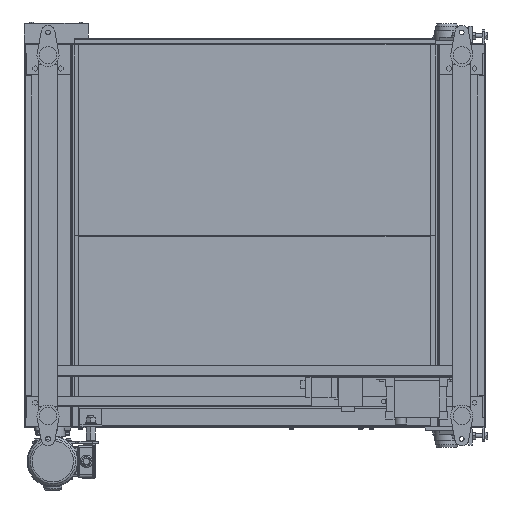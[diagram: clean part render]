
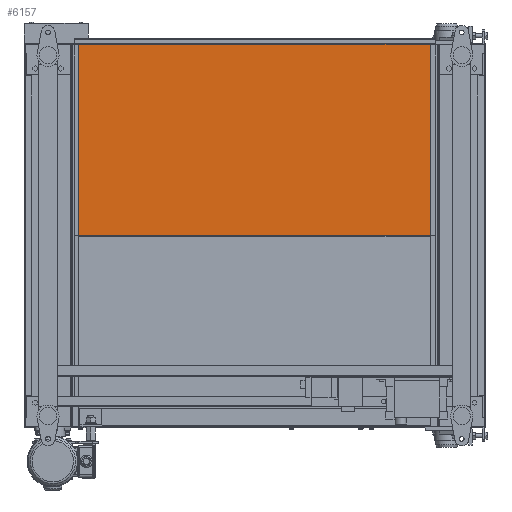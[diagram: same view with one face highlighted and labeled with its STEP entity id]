
A CAD part, front view. The second image highlights one B-rep face of the part: STEP entity #6157.
In plain terms, the highlighted planar face has unit normal (0, -1, 0).
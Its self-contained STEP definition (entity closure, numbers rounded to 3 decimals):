
#6157=ADVANCED_FACE('',(#36626),#36625,.F.);
#36625=PLANE('',#53426);
#36626=FACE_OUTER_BOUND('',#53427,.T.);
#53423=CARTESIAN_POINT('',(127.5,-165.,-10.));
#53424=DIRECTION('',(0.,1.,0.));
#53425=DIRECTION('',(0.,0.,1.));
#53426=AXIS2_PLACEMENT_3D('',#53423,#53424,#53425);
#53427=EDGE_LOOP('',(#70138,#70139,#70140,#70141));
#70138=ORIENTED_EDGE('',*,*,#78588,.F.);
#70139=ORIENTED_EDGE('',*,*,#78594,.F.);
#70140=ORIENTED_EDGE('',*,*,#78595,.F.);
#70141=ORIENTED_EDGE('',*,*,#78596,.F.);
#78588=EDGE_CURVE('',#133570,#133571,#133572,.T.);
#78594=EDGE_CURVE('',#133609,#133570,#133610,.T.);
#78595=EDGE_CURVE('',#133616,#133609,#133617,.T.);
#78596=EDGE_CURVE('',#133571,#133616,#133623,.T.);
#133570=VERTEX_POINT('',#167274);
#133571=VERTEX_POINT('',#167275);
#133572=LINE('',#167276,#167277);
#133609=VERTEX_POINT('',#167295);
#133610=LINE('',#167296,#167297);
#133616=VERTEX_POINT('',#167299);
#133617=LINE('',#167300,#167301);
#133623=LINE('',#167303,#167304);
#167274=CARTESIAN_POINT('',(137.5,-165.,0.));
#167275=CARTESIAN_POINT('',(137.5,-165.,528.2));
#167276=CARTESIAN_POINT('',(137.5,-165.,0.));
#167277=VECTOR('',#167278,528.2);
#167278=DIRECTION('',(0.,0.,1.));
#167295=CARTESIAN_POINT('',(1132.5,-165.,0.));
#167296=CARTESIAN_POINT('',(1132.5,-165.,0.));
#167297=VECTOR('',#167298,995.);
#167298=DIRECTION('',(-1.,0.,0.));
#167299=CARTESIAN_POINT('',(1132.5,-165.,528.2));
#167300=CARTESIAN_POINT('',(1132.5,-165.,528.2));
#167301=VECTOR('',#167302,528.2);
#167302=DIRECTION('',(0.,0.,-1.));
#167303=CARTESIAN_POINT('',(137.5,-165.,528.2));
#167304=VECTOR('',#167305,995.);
#167305=DIRECTION('',(1.,0.,0.));
